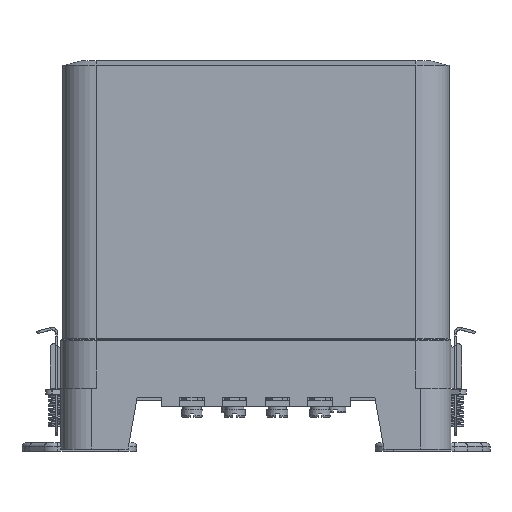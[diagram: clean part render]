
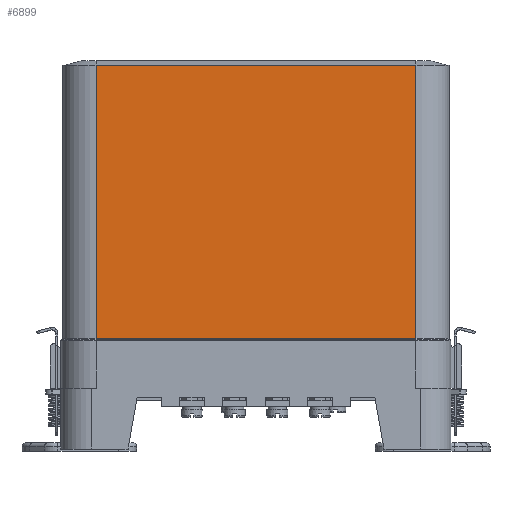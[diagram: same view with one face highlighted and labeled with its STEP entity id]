
A CAD part, left-side view. The second image highlights one B-rep face of the part: STEP entity #6899.
In plain terms, the highlighted planar face has unit normal (-1, 0, 0).
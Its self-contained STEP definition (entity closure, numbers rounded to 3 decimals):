
#6899=ADVANCED_FACE('',(#17163),#17165,.T.);
#17163=FACE_BOUND('',#17164,.T.);
#17164=EDGE_LOOP('',(#32696,#32697,#32698,#32699));
#17165=PLANE('',#17166);
#17166=AXIS2_PLACEMENT_3D('',#17167,#17168,#17169);
#17167=CARTESIAN_POINT('',(-46.5,52.5,20.));
#17168=DIRECTION('',(-1.,0.,0.));
#17169=DIRECTION('',(0.,-1.,0.));
#32696=ORIENTED_EDGE('',*,*,#37149,.T.);
#32697=ORIENTED_EDGE('',*,*,#37150,.F.);
#32698=ORIENTED_EDGE('',*,*,#36547,.F.);
#32699=ORIENTED_EDGE('',*,*,#37151,.T.);
#36547=EDGE_CURVE('',#40908,#40909,#40910,.F.);
#37149=EDGE_CURVE('',#41911,#41912,#41913,.F.);
#37150=EDGE_CURVE('',#40909,#41912,#41914,.T.);
#37151=EDGE_CURVE('',#40908,#41911,#41915,.T.);
#40908=VERTEX_POINT('',#50010);
#40909=VERTEX_POINT('',#50011);
#40910=LINE('',#50012,#50013);
#41911=VERTEX_POINT('',#52489);
#41912=VERTEX_POINT('',#52490);
#41913=LINE('',#52491,#52492);
#41914=LINE('',#52494,#52495);
#41915=LINE('',#52497,#52498);
#50010=CARTESIAN_POINT('',(-46.5,-52.5,36.366));
#50011=CARTESIAN_POINT('',(-46.5,52.5,36.366));
#50012=CARTESIAN_POINT('',(-46.5,52.5,36.366));
#50013=VECTOR('',#50014,1.);
#50014=DIRECTION('',(0.,-1.,0.));
#52489=CARTESIAN_POINT('',(-46.5,-52.5,126.));
#52490=CARTESIAN_POINT('',(-46.5,52.5,126.));
#52491=CARTESIAN_POINT('',(-46.5,52.5,126.));
#52492=VECTOR('',#52493,1.);
#52493=DIRECTION('',(0.,-1.,0.));
#52494=CARTESIAN_POINT('',(-46.5,52.5,36.366));
#52495=VECTOR('',#52496,1.);
#52496=DIRECTION('',(0.,0.,1.));
#52497=CARTESIAN_POINT('',(-46.5,-52.5,36.366));
#52498=VECTOR('',#52499,1.);
#52499=DIRECTION('',(0.,0.,1.));
